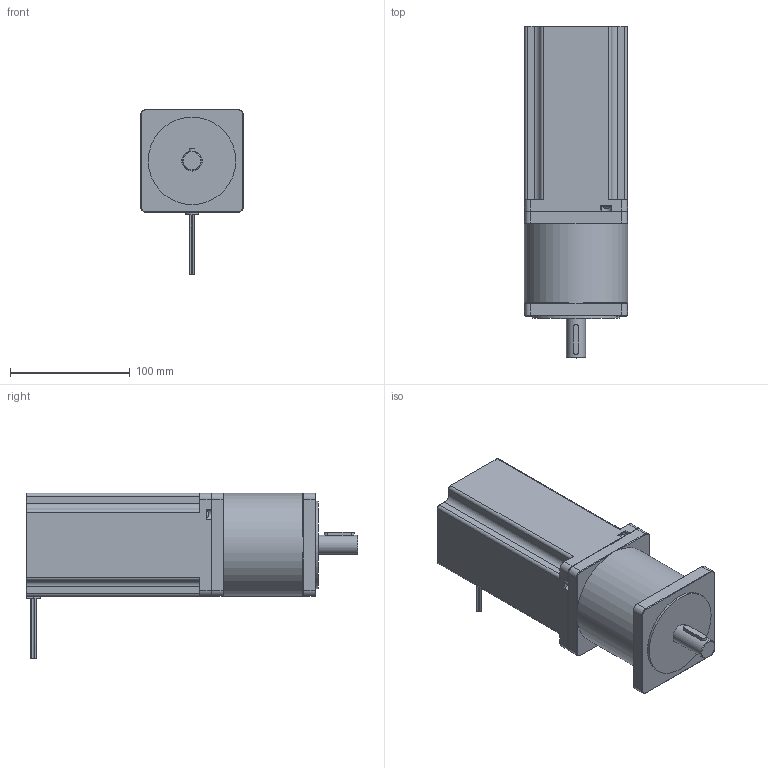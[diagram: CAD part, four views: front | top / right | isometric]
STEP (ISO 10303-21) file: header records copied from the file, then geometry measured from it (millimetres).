
FILE_DESCRIPTION(/* description */ (''),/* implementation_level */ '2;1');
FILE_NAME(/* name */ 'JK86HS155-6308PL16.prt.step',/* time_stamp */ '2019-12-06T14:27:34+08:00',/* author */ (''),/* organization */ (''),/* preprocessor_version */ 'ST-DEVELOPER v14',/* originating_system */ 'SIEMENS PLM Software NX 8.0',/* authorisation */ '');
FILE_SCHEMA (('AUTOMOTIVE_DESIGN { 1 0 10303 214 3 1 1 1 }'));
Length unit declared in the file: millimetre
Products named in the file (1): JK86HS155-6308PL16
Bounding box: 86 x 276.9 x 138 mm (x, y, z)
Volume: 1594748.7 mm3; surface area: 119917 mm2
Topology: 2 solids, 6 shells, 324 faces, 770 edges, 482 vertices
Faces by surface type: plane 215, cylinder 64, cone 41, bspline 4
Full cylindrical faces by diameter (mm): 1.234 x8, 3.3 x8, 5.249 x4, 6 x1, 6.5 x4, 15 x1, 16 x1, 17 x2, 18 x1, 73 x2, 86 x1
Entity records: 9547 total; most frequent: CARTESIAN_POINT 2373, DIRECTION 1477, ORIENTED_EDGE 1392, EDGE_CURVE 696, AXIS2_PLACEMENT_3D 518, VERTEX_POINT 456, LINE 441, VECTOR 441
